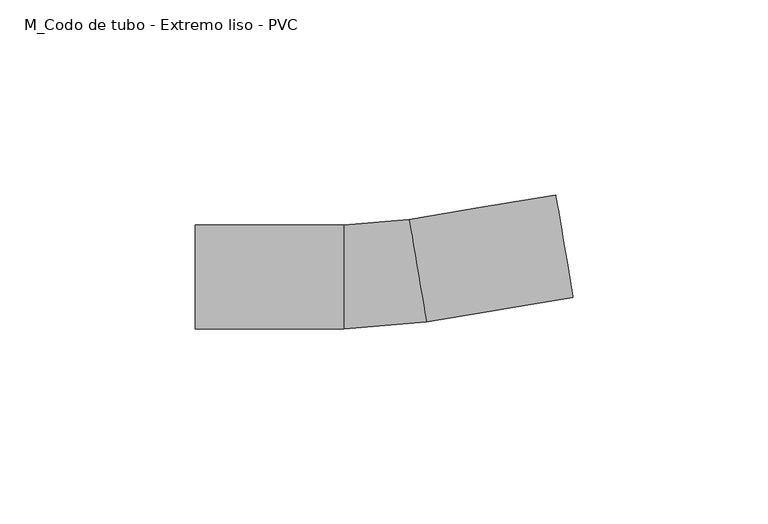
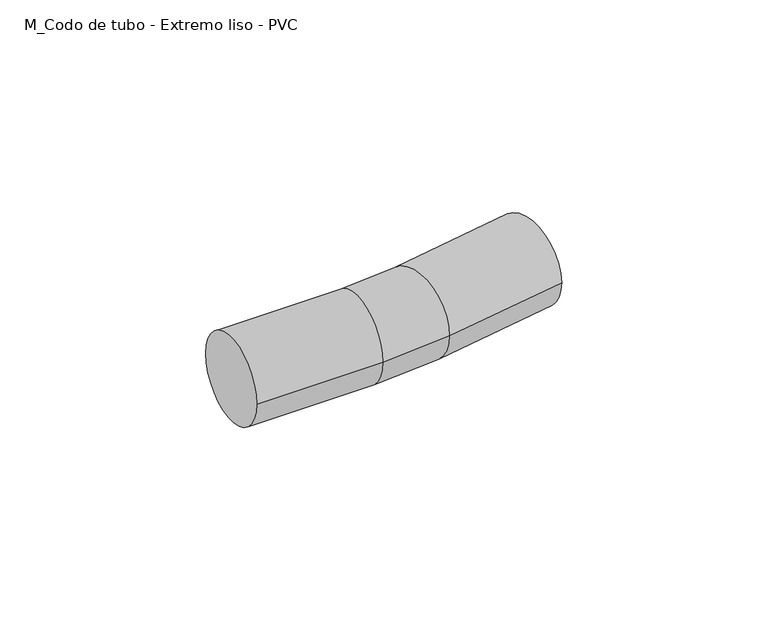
"""IFC4 building model written with IfcOpenShell, lengths in millimetres: cable carrier fitting geometry, M_Codo de tubo - Extremo liso - PVC : CODO ILUMINACION."""

from ifc_helpers import new_model, si_unit, point, frame, origin, place, context, project, spatial, circle_curve, ellipse_curve, trimmed, source, transform, mapped, element, save
from ifc_brep_helpers import plane_surface, cylinder_surface, revolved_surface, advanced_brep


def m_codo_de_tubo_extremo_liso_pvc_f661f515(model_context):
    return source(origin(), model_context, "Body", "AdvancedBrep", [
        advanced_brep(
        [(-47.6756118, -13.335, 0.0), (-47.6756118, 13.335, 0.0), (-9.5756118, -13.335, 0.0), (-9.5756118, 13.335, 0.0), (7.2233996, 14.7423562, 0.0), (11.6608743, -11.5558893, 0.0), (49.2297964, -5.2166398, 0.0), (44.7923217, 21.0816058, 0.0)],
        [
            (0, 1, circle_curve(frame((-47.6756118, 0.0, 0.0), z_axis=(-1.0, 0.0, 0.0), x_axis=(0.0, 1.0, 0.0)), 13.335)),
            (1, 0, circle_curve(frame((-47.6756118, 0.0, 0.0), z_axis=(-1.0, 0.0, 0.0), x_axis=(0.0, 1.0, 0.0)), 13.335)),
            (0, 2),
            (2, 3, circle_curve(frame((-9.5756118, 0.0, 0.0), z_axis=(-1.0, 0.0, 0.0), x_axis=(0.0, 1.0, 0.0)), 13.335)),
            (3, 1),
            (3, 2, circle_curve(frame((-9.5756118, 0.0, 0.0), z_axis=(-1.0, 0.0, 0.0), x_axis=(0.0, 1.0, 0.0)), 13.335)),
            (4, 3, circle_curve(frame((-9.5756118, 114.3, 0.0), z_axis=(0.0, 0.0, -1.0), x_axis=(0.0, -1.0, 0.0)), 100.965)),
            (2, 5, circle_curve(frame((-9.5756118, 114.3, 0.0), z_axis=(0.0, 0.0, 1.0), x_axis=(0.0, -1.0, 0.0)), 127.635)),
            (5, 4, circle_curve(frame((9.4421369, 1.5932334, 0.0), z_axis=(-0.9860609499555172, -0.1663845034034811, 0.0), x_axis=(-0.1663845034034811, 0.9860609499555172, 0.0)), 13.335)),
            (4, 5, circle_curve(frame((9.4421369, 1.5932334, 0.0), z_axis=(-0.9860609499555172, -0.1663845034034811, 0.0), x_axis=(-0.1663845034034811, 0.9860609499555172, 0.0)), 13.335)),
            (6, 7, circle_curve(frame((47.0110591, 7.932483, 0.0), z_axis=(0.9860609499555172, 0.16638450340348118, 0.0), x_axis=(-0.16638450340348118, 0.9860609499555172, 0.0)), 13.335)),
            (7, 6, circle_curve(frame((47.0110591, 7.932483, 0.0), z_axis=(0.9860609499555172, 0.16638450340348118, 0.0), x_axis=(-0.16638450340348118, 0.9860609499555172, 0.0)), 13.335)),
            (5, 6),
            (7, 4),
        ],
        [
            plane_surface(frame((-47.6756118, 0.0, 0.0), z_axis=(-1.0, 0.0, 0.0), x_axis=(0.0, 0.0, 1.0))),
            cylinder_surface(frame((-47.6756118, 0.0, 0.0), z_axis=(-1.0, 0.0, 0.0), x_axis=(0.0, 1.0, 0.0)), 13.335),
            revolved_surface(trimmed(ellipse_curve(frame((-9.5756118, 0.0, 0.0), z_axis=(-1.0, 0.0, 0.0), x_axis=(0.0, 1.0, 0.0)), 13.335, 13.335), [point((-9.5756118, -13.335, 0.0))], [point((-9.5756118, 13.335, 0.0))], True, "CARTESIAN"), (-9.5756118, 114.3, 0.0), (0.0, 0.0, 1.0)),
            revolved_surface(trimmed(ellipse_curve(frame((-9.5756118, 0.0, 0.0), z_axis=(-1.0, 0.0, 0.0), x_axis=(0.0, 1.0, 0.0)), 13.335, 13.335), [point((-9.5756118, 13.335, 0.0))], [point((-9.5756118, -13.335, 0.0))], True, "CARTESIAN"), (-9.5756118, 114.3, 0.0), (0.0, 0.0, 1.0)),
            plane_surface(frame((47.0110591, 7.932483, 0.0), z_axis=(0.9860609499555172, 0.16638450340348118, 0.0), x_axis=(0.0, 0.0, 1.0))),
            cylinder_surface(frame((9.4421369, 1.5932334, 0.0), z_axis=(-0.9860609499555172, -0.16638450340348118, 0.0), x_axis=(-0.16638450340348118, 0.9860609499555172, 0.0)), 13.335),
        ],
        [
            (0, [[1, 2]]),
            (1, [[-1, 3, 4, 5]]),
            (1, [[-2, -5, 6, -3]]),
            (2, [[7, -4, 8, 9]]),
            (3, [[-8, -6, -7, 10]]),
            (4, [[11, 12]]),
            (5, [[-9, 13, -12, 14]]),
            (5, [[-10, -14, -11, -13]]),
        ],
    ),
    ])


if __name__ == "__main__":
    model = new_model("IFC4")
    model_context = context("Model", 3, world=origin())
    ifc_project = project(units=[si_unit("LENGTHUNIT", "METRE", prefix="MILLI")], contexts=[model_context])
    site = spatial("IfcSite", under=ifc_project)
    building = spatial("IfcBuilding", under=site)
    placement = place(None, origin())
    m_codo_de_tubo_extremo_liso_pvc_shape = m_codo_de_tubo_extremo_liso_pvc_f661f515(model_context)
    element("IfcCableCarrierFitting", 1, ObjectType="M_Codo de tubo - Extremo liso - PVC : CODO ILUMINACION", at=placement, inside=building, context=model_context, shape_type="MappedRepresentation", body=[
        mapped(m_codo_de_tubo_extremo_liso_pvc_shape, transform((0.0, 0.0, 0.0), x_axis=(1.0, 0.0, 0.0), y_axis=(0.0, 1.0, 0.0), z_axis=(0.0, 0.0, 1.0))),
    ])
    save(model, "model.ifc")
